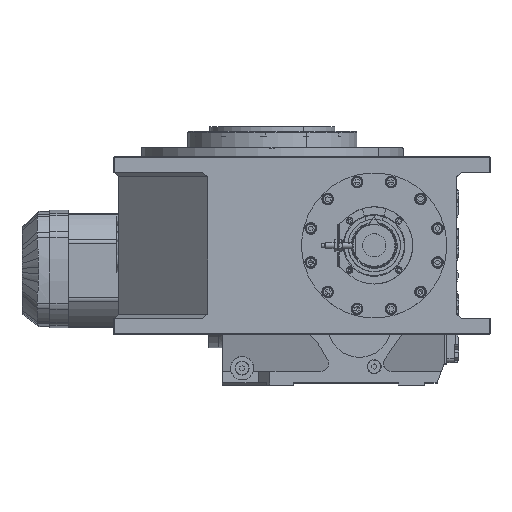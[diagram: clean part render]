
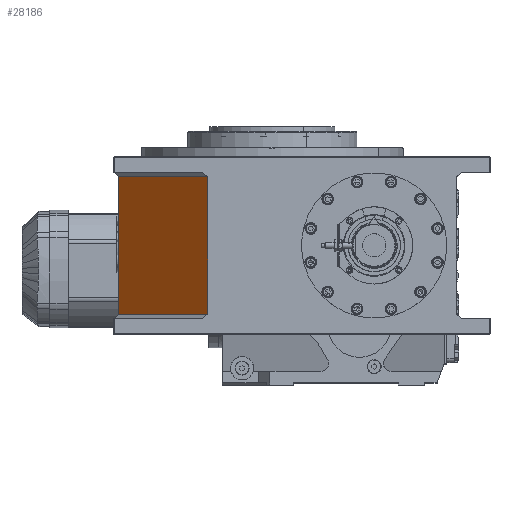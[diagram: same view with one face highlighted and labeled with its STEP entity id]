
A CAD part, top view. The second image highlights one B-rep face of the part: STEP entity #28186.
In plain terms, the highlighted planar face has unit normal (-0.707, 0, 0.707).
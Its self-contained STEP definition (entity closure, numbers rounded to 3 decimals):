
#1653 = DIRECTION ( 'NONE',  ( 0., -1., 0. ) ) ;
#2414 = DIRECTION ( 'NONE',  ( -0.707, 0., -0.707 ) ) ;
#3046 = CARTESIAN_POINT ( 'NONE',  ( -199., 204., 83.259 ) ) ;
#3395 = VERTEX_POINT ( 'NONE', #3046 ) ;
#4929 = EDGE_CURVE ( 'NONE', #24961, #39693, #33257, .T. ) ;
#9940 = VECTOR ( 'NONE', #50232, 1000. ) ;
#11544 = EDGE_CURVE ( 'NONE', #11634, #3395, #84687, .T. ) ;
#11634 = VERTEX_POINT ( 'NONE', #38381 ) ;
#12299 = VECTOR ( 'NONE', #2414, 1000. ) ;
#21233 = CARTESIAN_POINT ( 'NONE',  ( -83.259, 26., 199. ) ) ;
#23501 = FACE_OUTER_BOUND ( 'NONE', #38178, .T. ) ;
#24483 = DIRECTION ( 'NONE',  ( 0.707, 0., -0.707 ) ) ;
#24961 = VERTEX_POINT ( 'NONE', #90787 ) ;
#28186 = ADVANCED_FACE ( 'NONE', ( #23501 ), #91901, .F. ) ;
#29932 = VECTOR ( 'NONE', #1653, 1000. ) ;
#31244 = CARTESIAN_POINT ( 'NONE',  ( -83.259, 210., 199. ) ) ;
#33257 = LINE ( 'NONE', #70107, #90810 ) ;
#38178 = EDGE_LOOP ( 'NONE', ( #39056, #87028, #39392, #47078 ) ) ;
#38381 = CARTESIAN_POINT ( 'NONE',  ( -83.259, 204., 199. ) ) ;
#39056 = ORIENTED_EDGE ( 'NONE', *, *, #87008, .F. ) ;
#39392 = ORIENTED_EDGE ( 'NONE', *, *, #89627, .T. ) ;
#39693 = VERTEX_POINT ( 'NONE', #21233 ) ;
#40645 = DIRECTION ( 'NONE',  ( 0.707, 0., 0.707 ) ) ;
#47078 = ORIENTED_EDGE ( 'NONE', *, *, #4929, .T. ) ;
#47505 = LINE ( 'NONE', #31244, #29932 ) ;
#50232 = DIRECTION ( 'NONE',  ( 0., -1., 0. ) ) ;
#57081 = AXIS2_PLACEMENT_3D ( 'NONE', #76625, #24483, #82567 ) ;
#58041 = CARTESIAN_POINT ( 'NONE',  ( -199., 210., 83.259 ) ) ;
#69883 = CARTESIAN_POINT ( 'NONE',  ( -199., 204., 83.259 ) ) ;
#70107 = CARTESIAN_POINT ( 'NONE',  ( -83.259, 26., 199. ) ) ;
#76625 = CARTESIAN_POINT ( 'NONE',  ( -83.259, 210., 199. ) ) ;
#82567 = DIRECTION ( 'NONE',  ( -0.707, 0., -0.707 ) ) ;
#84687 = LINE ( 'NONE', #69883, #12299 ) ;
#87008 = EDGE_CURVE ( 'NONE', #11634, #39693, #47505, .T. ) ;
#87028 = ORIENTED_EDGE ( 'NONE', *, *, #11544, .T. ) ;
#87165 = LINE ( 'NONE', #58041, #9940 ) ;
#89627 = EDGE_CURVE ( 'NONE', #3395, #24961, #87165, .T. ) ;
#90787 = CARTESIAN_POINT ( 'NONE',  ( -199., 26., 83.259 ) ) ;
#90810 = VECTOR ( 'NONE', #40645, 1000. ) ;
#91901 = PLANE ( 'NONE',  #57081 ) ;
